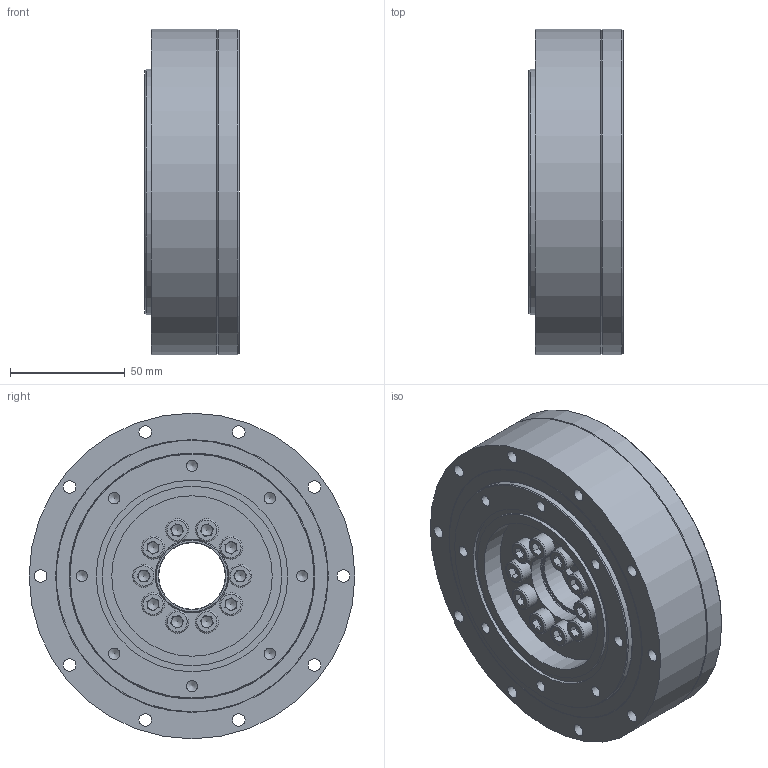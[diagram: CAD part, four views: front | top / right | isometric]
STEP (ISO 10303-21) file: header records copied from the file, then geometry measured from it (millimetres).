
FILE_DESCRIPTION (( 'STEP AP203' ), '1' );
FILE_NAME ('LCD-32-XXX-C-I.STEP', '2025-01-20T02:22:23', ( '' ), ( '' ), 'SwSTEP 2.0', 'SolidWorks 2023', '' );
FILE_SCHEMA (( 'CONFIG_CONTROL_DESIGN' ));
Length unit declared in the file: metre
Products named in the file (1): LCD-32-XXX-C-I
Bounding box: 41 x 142 x 142 mm (x, y, z)
Volume: 453675.1 mm3; surface area: 196737.4 mm2
Topology: 54 solids, 54 shells, 892 faces, 2122 edges, 1336 vertices
Faces by surface type: plane 436, cylinder 246, cone 130, bspline 80
Full cylindrical faces by diameter (mm): 2.5 x4, 3 x4, 3.3 x17, 3.4 x4, 4 x5, 4.4 x8, 4.5 x9, 5 x18, 5.5 x24, 6 x10, 6.5 x10, 6.6 x10, 7 x5, 8 x5, 10 x10, 29 x1, 32 x5, 52 x2, 56 x2, 58.5 x1, 59 x1, 62 x2, 62.575 x2, 63.52 x1, 68 x1, 70 x1, 74.08 x1, 75.075 x2, 78.3 x1, 78.6 x1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
Entity records: 27804 total; most frequent: CARTESIAN_POINT 9039, DIRECTION 3944, ORIENTED_EDGE 3302, EDGE_CURVE 1651, AXIS2_PLACEMENT_3D 1642, EDGE_LOOP 1434, VERTEX_POINT 1227, FACE_OUTER_BOUND 1118
